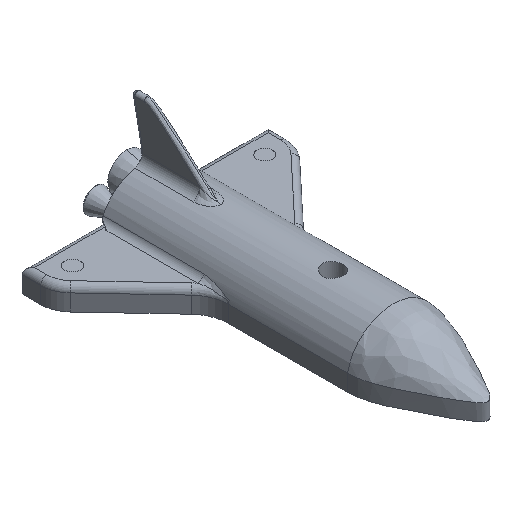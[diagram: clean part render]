
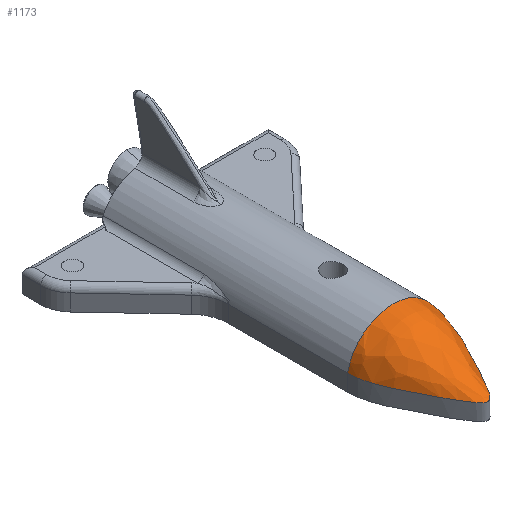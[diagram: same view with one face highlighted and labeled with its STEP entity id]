
A CAD part, isometric view. The second image highlights one B-rep face of the part: STEP entity #1173.
In plain terms, the highlighted free-form (B-spline) face has degree [3, 3] with [5, 4] control points.
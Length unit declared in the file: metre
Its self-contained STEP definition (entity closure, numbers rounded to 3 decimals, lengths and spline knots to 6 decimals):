
#47=(
BOUNDED_SURFACE()
B_SPLINE_SURFACE(3,3,((#2170,#2171,#2172,#2173),(#2174,#2175,#2176,#2177),
(#2178,#2179,#2180,#2181),(#2182,#2183,#2184,#2185),(#2186,#2187,#2188,
#2189)),.UNSPECIFIED.,.F.,.F.,.F.)
B_SPLINE_SURFACE_WITH_KNOTS((4,1,4),(4,4),(0.273523,0.636762,
1.),(0.,1.),.UNSPECIFIED.)
GEOMETRIC_REPRESENTATION_ITEM()
RATIONAL_B_SPLINE_SURFACE(((1.,0.456,0.456,1.),
(1.,0.456,0.456,1.),(1.,0.456,0.456,
1.),(1.,0.456,0.456,1.),(1.,0.456,0.456,
1.)))
REPRESENTATION_ITEM('')
SURFACE()
);
#70=CIRCLE('',#1268,0.01125);
#315=FACE_OUTER_BOUND('',#395,.T.);
#395=EDGE_LOOP('',(#847,#848));
#476=B_SPLINE_CURVE_WITH_KNOTS('',3,(#2193,#2194,#2195,#2196,#2197,#2198,
#2199,#2200,#2201,#2202,#2203,#2204,#2205,#2206,#2207,#2208,#2209,#2210,
#2211,#2212,#2213,#2214,#2215,#2216,#2217,#2218,#2219,#2220,#2221,#2222,
#2223,#2224,#2225,#2226,#2227,#2228,#2229,#2230,#2231,#2232,#2233,#2234,
#2235,#2236,#2237,#2238,#2239,#2240,#2241,#2242,#2243,#2244,#2245,#2246,
#2247,#2248,#2249,#2250,#2251,#2252,#2253,#2254),.UNSPECIFIED.,.F.,.F.,
(4,2,2,2,2,2,2,2,2,2,2,2,2,2,2,2,2,2,2,2,2,2,2,2,2,2,2,2,2,2,4),(-3.358106,
-3.23515,-3.14183,-2.955236,-2.902445,
-2.841374,-2.688677,-2.668177,-2.646617,
-2.623501,-2.592346,-2.570032,-2.558496,
-2.531515,-2.512199,-2.493029,-2.47903,
-2.436361,-2.394721,-2.267528,-2.227731,
-2.120616,-2.054621,-1.560922,-1.364097,
-1.195545,-0.896316,-0.449794,-0.337951,
-0.171049,0.),.UNSPECIFIED.);
#532=VERTEX_POINT('',#2190);
#533=VERTEX_POINT('',#2191);
#651=EDGE_CURVE('',#532,#533,#70,.F.);
#652=EDGE_CURVE('',#533,#532,#476,.T.);
#847=ORIENTED_EDGE('',*,*,#651,.T.);
#848=ORIENTED_EDGE('',*,*,#652,.T.);
#1173=ADVANCED_FACE('',(#315),#47,.T.);
#1268=AXIS2_PLACEMENT_3D('',#2192,#1430,#1431);
#1430=DIRECTION('center_axis',(0.,1.,0.));
#1431=DIRECTION('ref_axis',(0.98,0.,0.2));
#2170=CARTESIAN_POINT('Ctrl Pts',(0.002158,-0.023039,
0.000404));
#2171=CARTESIAN_POINT('Ctrl Pts',(0.001578,-0.023039,
0.003506));
#2172=CARTESIAN_POINT('Ctrl Pts',(-0.001578,-0.023039,
0.003506));
#2173=CARTESIAN_POINT('Ctrl Pts',(-0.002158,-0.023039,
0.000404));
#2174=CARTESIAN_POINT('Ctrl Pts',(0.003648,-0.019564,
0.000682));
#2175=CARTESIAN_POINT('Ctrl Pts',(0.002667,-0.019564,
0.005925));
#2176=CARTESIAN_POINT('Ctrl Pts',(-0.002667,-0.019564,
0.005925));
#2177=CARTESIAN_POINT('Ctrl Pts',(-0.003648,-0.019564,
0.000682));
#2178=CARTESIAN_POINT('Ctrl Pts',(0.007686,-0.011758,
0.001438));
#2179=CARTESIAN_POINT('Ctrl Pts',(0.005619,-0.011758,
0.012485));
#2180=CARTESIAN_POINT('Ctrl Pts',(-0.005619,-0.011758,
0.012485));
#2181=CARTESIAN_POINT('Ctrl Pts',(-0.007686,-0.011758,
0.001438));
#2182=CARTESIAN_POINT('Ctrl Pts',(0.011058,-0.00373,
0.002069));
#2183=CARTESIAN_POINT('Ctrl Pts',(0.008085,-0.00373,
0.017963));
#2184=CARTESIAN_POINT('Ctrl Pts',(-0.008085,-0.00373,
0.017963));
#2185=CARTESIAN_POINT('Ctrl Pts',(-0.011058,-0.00373,
0.002069));
#2186=CARTESIAN_POINT('Ctrl Pts',(0.011058,0.,
0.002069));
#2187=CARTESIAN_POINT('Ctrl Pts',(0.008085,0.,
0.017963));
#2188=CARTESIAN_POINT('Ctrl Pts',(-0.008085,0.,
0.017963));
#2189=CARTESIAN_POINT('Ctrl Pts',(-0.011058,0.,
0.002069));
#2190=CARTESIAN_POINT('',(0.011023,0.,0.00225));
#2191=CARTESIAN_POINT('',(-0.011023,0.,0.00225));
#2192=CARTESIAN_POINT('Origin',(0.,0.,
0.));
#2193=CARTESIAN_POINT('Ctrl Pts',(-0.011023,0.,
0.00225));
#2194=CARTESIAN_POINT('Ctrl Pts',(-0.011023,-0.000819,
0.00225));
#2195=CARTESIAN_POINT('Ctrl Pts',(-0.010945,-0.001843,
0.002223));
#2196=CARTESIAN_POINT('Ctrl Pts',(-0.010456,-0.004089,
0.002223));
#2197=CARTESIAN_POINT('Ctrl Pts',(-0.010163,-0.005045,
0.002242));
#2198=CARTESIAN_POINT('Ctrl Pts',(-0.009176,-0.007803,
0.002275));
#2199=CARTESIAN_POINT('Ctrl Pts',(-0.008339,-0.009626,
0.00225));
#2200=CARTESIAN_POINT('Ctrl Pts',(-0.007204,-0.011922,
0.002248));
#2201=CARTESIAN_POINT('Ctrl Pts',(-0.006938,-0.01245,
0.002249));
#2202=CARTESIAN_POINT('Ctrl Pts',(-0.006381,-0.013538,
0.002247));
#2203=CARTESIAN_POINT('Ctrl Pts',(-0.006079,-0.01412,
0.002247));
#2204=CARTESIAN_POINT('Ctrl Pts',(-0.005002,-0.016156,
0.002245));
#2205=CARTESIAN_POINT('Ctrl Pts',(-0.004069,-0.017865,
0.002248));
#2206=CARTESIAN_POINT('Ctrl Pts',(-0.003124,-0.019468,
0.002249));
#2207=CARTESIAN_POINT('Ctrl Pts',(-0.003007,-0.019664,
0.002249));
#2208=CARTESIAN_POINT('Ctrl Pts',(-0.002767,-0.020059,
0.002249));
#2209=CARTESIAN_POINT('Ctrl Pts',(-0.002643,-0.020259,
0.002249));
#2210=CARTESIAN_POINT('Ctrl Pts',(-0.00238,-0.020672,
0.002249));
#2211=CARTESIAN_POINT('Ctrl Pts',(-0.002228,-0.020905,
0.002249));
#2212=CARTESIAN_POINT('Ctrl Pts',(-0.00188,-0.021411,
0.00225));
#2213=CARTESIAN_POINT('Ctrl Pts',(-0.001666,-0.021702,
0.002251));
#2214=CARTESIAN_POINT('Ctrl Pts',(-0.001276,-0.022167,
0.00225));
#2215=CARTESIAN_POINT('Ctrl Pts',(-0.001146,-0.022304,
0.002248));
#2216=CARTESIAN_POINT('Ctrl Pts',(-0.000967,-0.022469,
0.002249));
#2217=CARTESIAN_POINT('Ctrl Pts',(-0.000904,-0.022522,
0.002249));
#2218=CARTESIAN_POINT('Ctrl Pts',(-0.000685,-0.022691,
0.002251));
#2219=CARTESIAN_POINT('Ctrl Pts',(-0.000536,-0.02278,
0.002251));
#2220=CARTESIAN_POINT('Ctrl Pts',(-0.000282,-0.022879,
0.00225));
#2221=CARTESIAN_POINT('Ctrl Pts',(-0.000171,-0.022907,
0.00225));
#2222=CARTESIAN_POINT('Ctrl Pts',(0.000055,-0.022918,
0.00225));
#2223=CARTESIAN_POINT('Ctrl Pts',(0.000167,-0.022902,
0.002252));
#2224=CARTESIAN_POINT('Ctrl Pts',(0.000355,-0.022848,
0.002253));
#2225=CARTESIAN_POINT('Ctrl Pts',(0.000432,-0.022818,
0.002253));
#2226=CARTESIAN_POINT('Ctrl Pts',(0.000732,-0.022673,
0.002251));
#2227=CARTESIAN_POINT('Ctrl Pts',(0.00091,-0.022523,
0.002248));
#2228=CARTESIAN_POINT('Ctrl Pts',(0.001122,-0.022328,
0.002248));
#2229=CARTESIAN_POINT('Ctrl Pts',(0.00122,-0.022223,
0.002249));
#2230=CARTESIAN_POINT('Ctrl Pts',(0.001599,-0.021795,
0.002252));
#2231=CARTESIAN_POINT('Ctrl Pts',(0.001857,-0.021446,
0.002249));
#2232=CARTESIAN_POINT('Ctrl Pts',(0.002183,-0.02097,
0.002249));
#2233=CARTESIAN_POINT('Ctrl Pts',(0.002261,-0.020852,
0.00225));
#2234=CARTESIAN_POINT('Ctrl Pts',(0.002532,-0.020438,
0.002249));
#2235=CARTESIAN_POINT('Ctrl Pts',(0.002723,-0.020132,
0.002249));
#2236=CARTESIAN_POINT('Ctrl Pts',(0.003027,-0.01963,
0.002249));
#2237=CARTESIAN_POINT('Ctrl Pts',(0.003146,-0.019431,
0.002249));
#2238=CARTESIAN_POINT('Ctrl Pts',(0.004088,-0.017831,
0.002248));
#2239=CARTESIAN_POINT('Ctrl Pts',(0.005022,-0.016119,
0.002245));
#2240=CARTESIAN_POINT('Ctrl Pts',(0.0061,-0.014079,
0.002247));
#2241=CARTESIAN_POINT('Ctrl Pts',(0.006402,-0.013498,
0.002247));
#2242=CARTESIAN_POINT('Ctrl Pts',(0.006956,-0.012415,
0.002249));
#2243=CARTESIAN_POINT('Ctrl Pts',(0.007222,-0.011886,
0.002248));
#2244=CARTESIAN_POINT('Ctrl Pts',(0.00792,-0.010472,
0.00225));
#2245=CARTESIAN_POINT('Ctrl Pts',(0.008351,-0.009565,
0.002256));
#2246=CARTESIAN_POINT('Ctrl Pts',(0.00935,-0.007302,
0.002258));
#2247=CARTESIAN_POINT('Ctrl Pts',(0.009913,-0.005871,
0.002254));
#2248=CARTESIAN_POINT('Ctrl Pts',(0.010429,-0.00408,
0.002254));
#2249=CARTESIAN_POINT('Ctrl Pts',(0.010523,-0.003719,
0.002254));
#2250=CARTESIAN_POINT('Ctrl Pts',(0.010733,-0.002814,
0.002252));
#2251=CARTESIAN_POINT('Ctrl Pts',(0.010837,-0.002262,
0.002247));
#2252=CARTESIAN_POINT('Ctrl Pts',(0.010983,-0.001136,
0.002246));
#2253=CARTESIAN_POINT('Ctrl Pts',(0.011023,-0.00057,
0.00225));
#2254=CARTESIAN_POINT('Ctrl Pts',(0.011023,0.,
0.00225));
